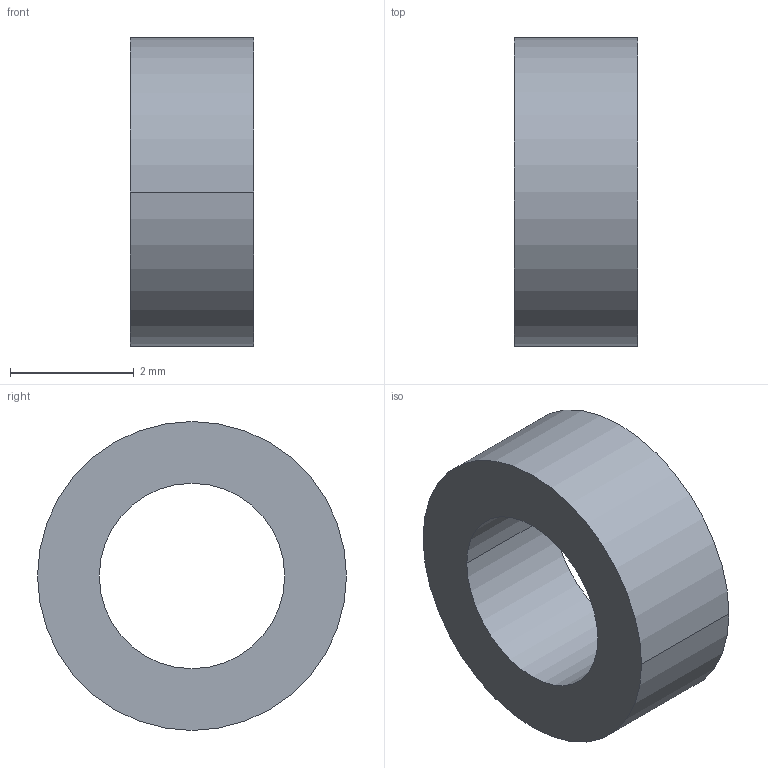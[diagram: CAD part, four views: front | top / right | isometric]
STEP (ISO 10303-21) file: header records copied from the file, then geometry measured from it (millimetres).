
FILE_DESCRIPTION (( 'STEP AP203' ), '1' );
FILE_NAME ('3MM__.stp_Défaut_sldprt.STEP', '2024-11-30T15:37:57', ( '' ), ( '' ), 'SwSTEP 2.0', 'SolidWorks 2023', '' );
FILE_SCHEMA (( 'CONFIG_CONTROL_DESIGN' ));
Length unit declared in the file: millimetre
Products named in the file (1): 3MM__.stp_Défaut_sldprt
Bounding box: 2 x 5 x 5 mm (x, y, z)
Volume: 25.1 mm3; surface area: 75.4 mm2
Topology: 1 solids, 1 shells, 6 faces, 12 edges, 8 vertices
Faces by surface type: cylinder 4, plane 2
Entity records: 245 total; most frequent: DIRECTION 34, CARTESIAN_POINT 27, ORIENTED_EDGE 24, AXIS2_PLACEMENT_3D 15, EDGE_CURVE 12, CIRCLE 8, PERSON_AND_ORGANIZATION 8, EDGE_LOOP 8
